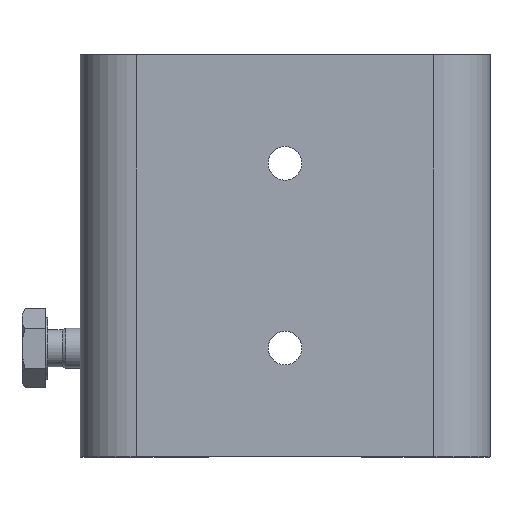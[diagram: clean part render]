
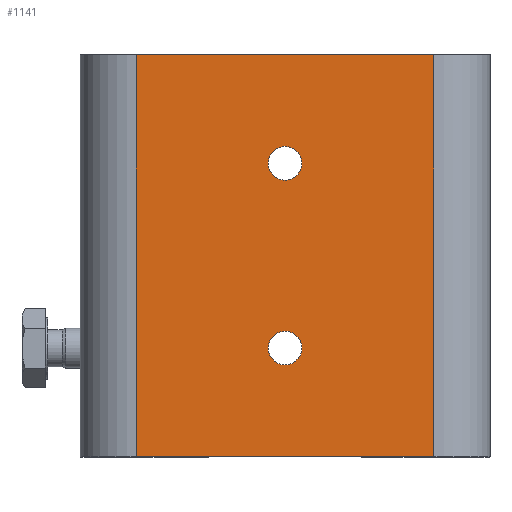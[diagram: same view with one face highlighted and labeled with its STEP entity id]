
A CAD part, top view. The second image highlights one B-rep face of the part: STEP entity #1141.
In plain terms, the highlighted planar face has unit normal (0, 0, 1).
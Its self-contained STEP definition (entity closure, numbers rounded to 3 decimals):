
#47=FACE_BOUND('',#179,.T.);
#48=FACE_BOUND('',#180,.T.);
#97=FACE_OUTER_BOUND('',#178,.T.);
#178=EDGE_LOOP('',(#787,#788,#789,#790));
#179=EDGE_LOOP('',(#791));
#180=EDGE_LOOP('',(#792));
#286=LINE('',#1744,#382);
#288=LINE('',#1748,#384);
#289=LINE('',#1750,#385);
#290=LINE('',#1751,#386);
#382=VECTOR('',#1379,100.);
#384=VECTOR('',#1383,74.);
#385=VECTOR('',#1384,100.);
#386=VECTOR('',#1385,74.);
#476=CIRCLE('',#1230,4.2);
#477=CIRCLE('',#1231,4.2);
#524=VERTEX_POINT('',#1728);
#527=VERTEX_POINT('',#1735);
#529=VERTEX_POINT('',#1747);
#530=VERTEX_POINT('',#1749);
#531=VERTEX_POINT('',#1752);
#532=VERTEX_POINT('',#1754);
#624=EDGE_CURVE('',#524,#527,#286,.T.);
#626=EDGE_CURVE('',#527,#529,#288,.T.);
#627=EDGE_CURVE('',#529,#530,#289,.T.);
#628=EDGE_CURVE('',#530,#524,#290,.T.);
#629=EDGE_CURVE('',#531,#531,#476,.T.);
#630=EDGE_CURVE('',#532,#532,#477,.T.);
#787=ORIENTED_EDGE('',*,*,#624,.T.);
#788=ORIENTED_EDGE('',*,*,#626,.T.);
#789=ORIENTED_EDGE('',*,*,#627,.T.);
#790=ORIENTED_EDGE('',*,*,#628,.T.);
#791=ORIENTED_EDGE('',*,*,#629,.T.);
#792=ORIENTED_EDGE('',*,*,#630,.T.);
#1087=PLANE('',#1229);
#1141=ADVANCED_FACE('',(#97,#47,#48),#1087,.T.);
#1229=AXIS2_PLACEMENT_3D('',#1746,#1381,#1382);
#1230=AXIS2_PLACEMENT_3D('',#1753,#1386,#1387);
#1231=AXIS2_PLACEMENT_3D('',#1755,#1388,#1389);
#1379=DIRECTION('',(0.,1.,0.));
#1381=DIRECTION('center_axis',(0.,0.,1.));
#1382=DIRECTION('ref_axis',(1.,0.,0.));
#1383=DIRECTION('',(-1.,0.,0.));
#1384=DIRECTION('',(0.,-1.,0.));
#1385=DIRECTION('',(1.,0.,0.));
#1386=DIRECTION('center_axis',(0.,0.,-1.));
#1387=DIRECTION('ref_axis',(-1.,0.,0.));
#1388=DIRECTION('center_axis',(0.,0.,-1.));
#1389=DIRECTION('ref_axis',(-1.,0.,0.));
#1728=CARTESIAN_POINT('',(37.,-50.,0.));
#1735=CARTESIAN_POINT('',(37.,50.,0.));
#1744=CARTESIAN_POINT('',(37.,25.,0.));
#1746=CARTESIAN_POINT('Origin',(135.6,0.,0.));
#1747=CARTESIAN_POINT('',(-37.,50.,0.));
#1748=CARTESIAN_POINT('',(144.9,50.,0.));
#1749=CARTESIAN_POINT('',(-37.,-50.,0.));
#1750=CARTESIAN_POINT('',(-37.,-25.,0.));
#1751=CARTESIAN_POINT('',(-144.9,-50.,0.));
#1752=CARTESIAN_POINT('',(4.2,23.,0.));
#1753=CARTESIAN_POINT('Origin',(0.,23.,0.));
#1754=CARTESIAN_POINT('',(4.2,-23.,0.));
#1755=CARTESIAN_POINT('Origin',(0.,-23.,0.));
